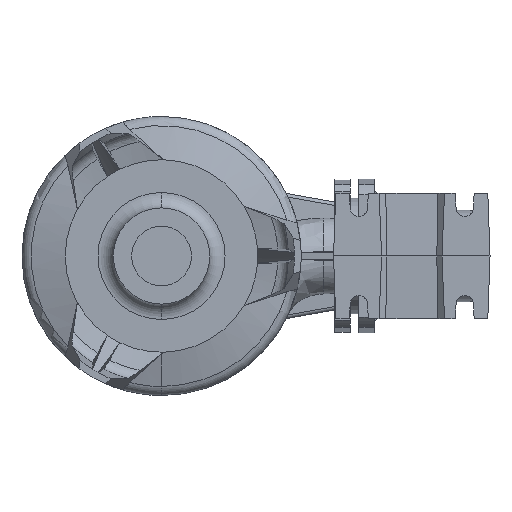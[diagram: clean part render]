
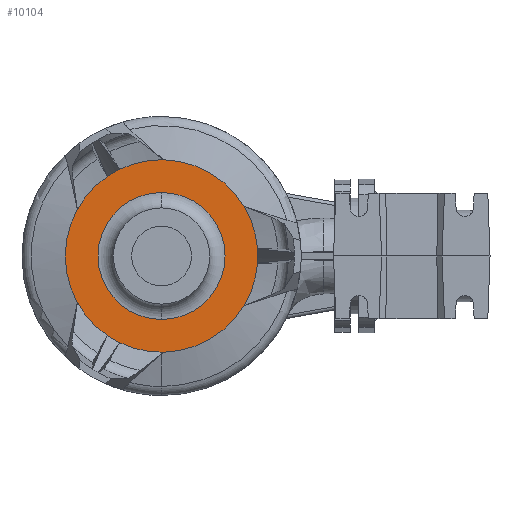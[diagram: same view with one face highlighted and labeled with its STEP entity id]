
A CAD part, front view. The second image highlights one B-rep face of the part: STEP entity #10104.
In plain terms, the highlighted planar face has unit normal (0, -1, 0).
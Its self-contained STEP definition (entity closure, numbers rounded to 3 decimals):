
#101 = DIRECTION ( 'NONE',  ( 0., 0., -1. ) ) ;
#225 = DIRECTION ( 'NONE',  ( 0., 1., 0. ) ) ;
#466 = CARTESIAN_POINT ( 'NONE',  ( -274.678, -178.993, 0. ) ) ;
#952 = VERTEX_POINT ( 'NONE', #12724 ) ;
#1025 = CARTESIAN_POINT ( 'NONE',  ( -274.678, -178.993, 0. ) ) ;
#1118 = DIRECTION ( 'NONE',  ( 0., 0., 1. ) ) ;
#1166 = CARTESIAN_POINT ( 'NONE',  ( -174.958, -178.993, -7.483 ) ) ;
#1378 = DIRECTION ( 'NONE',  ( 0., 0., -1. ) ) ;
#1477 = DIRECTION ( 'NONE',  ( 0., 1., 0. ) ) ;
#1784 = CARTESIAN_POINT ( 'NONE',  ( -318.057, -178.993, -90.101 ) ) ;
#1827 = DIRECTION ( 'NONE',  ( 0., 1., 0. ) ) ;
#1891 = DIRECTION ( 'NONE',  ( 0., 0., -1. ) ) ;
#1928 = CARTESIAN_POINT ( 'NONE',  ( -362.148, -178.993, -48.465 ) ) ;
#1936 = CARTESIAN_POINT ( 'NONE',  ( -274.678, -178.993, 0. ) ) ;
#2002 = VERTEX_POINT ( 'NONE', #5962 ) ;
#2158 = CIRCLE ( 'NONE', #11472, 100. ) ;
#2330 = ORIENTED_EDGE ( 'NONE', *, *, #14148, .T. ) ;
#2352 = DIRECTION ( 'NONE',  ( 0., 0., 1. ) ) ;
#2396 = AXIS2_PLACEMENT_3D ( 'NONE', #14916, #5414, #101 ) ;
#2555 = CIRCLE ( 'NONE', #11863, 100. ) ;
#2576 = EDGE_LOOP ( 'NONE', ( #6443, #14277, #2597, #12723, #4040, #13414, #12950, #15741, #10594, #8594, #15819, #12245, #10343 ) ) ;
#2597 = ORIENTED_EDGE ( 'NONE', *, *, #5905, .T. ) ;
#2618 = AXIS2_PLACEMENT_3D ( 'NONE', #13889, #1827, #5894 ) ;
#2654 = DIRECTION ( 'NONE',  ( 0., 0., 1. ) ) ;
#2691 = PLANE ( 'NONE',  #15300 ) ;
#2702 = DIRECTION ( 'NONE',  ( 0., -1., 0. ) ) ;
#2709 = CIRCLE ( 'NONE', #11165, 100. ) ;
#3142 = CARTESIAN_POINT ( 'NONE',  ( -272.914, -178.993, -99.984 ) ) ;
#3159 = EDGE_CURVE ( 'NONE', #12567, #7004, #4070, .T. ) ;
#3555 = CIRCLE ( 'NONE', #17340, 66. ) ;
#3683 = DIRECTION ( 'NONE',  ( 0., -1., 0. ) ) ;
#3813 = AXIS2_PLACEMENT_3D ( 'NONE', #17358, #17443, #15667 ) ;
#3906 = EDGE_CURVE ( 'NONE', #8948, #11358, #15269, .T. ) ;
#3944 = DIRECTION ( 'NONE',  ( 0., 0., -1. ) ) ;
#4005 = DIRECTION ( 'NONE',  ( 0., 1., 0. ) ) ;
#4040 = ORIENTED_EDGE ( 'NONE', *, *, #14385, .T. ) ;
#4070 = CIRCLE ( 'NONE', #10842, 100. ) ;
#4110 = VERTEX_POINT ( 'NONE', #7892 ) ;
#4111 = CIRCLE ( 'NONE', #10059, 100. ) ;
#4112 = CARTESIAN_POINT ( 'NONE',  ( -274.678, -178.993, 66. ) ) ;
#4424 = DIRECTION ( 'NONE',  ( 0., -1., 0. ) ) ;
#4511 = DIRECTION ( 'NONE',  ( 0., 0., -1. ) ) ;
#4653 = AXIS2_PLACEMENT_3D ( 'NONE', #8599, #13950, #1891 ) ;
#4897 = VERTEX_POINT ( 'NONE', #13363 ) ;
#4933 = EDGE_CURVE ( 'NONE', #5296, #952, #2555, .T. ) ;
#5005 = CARTESIAN_POINT ( 'NONE',  ( -274.678, -178.993, 0. ) ) ;
#5296 = VERTEX_POINT ( 'NONE', #1166 ) ;
#5414 = DIRECTION ( 'NONE',  ( 0., 1., 0. ) ) ;
#5430 = VERTEX_POINT ( 'NONE', #16143 ) ;
#5685 = CARTESIAN_POINT ( 'NONE',  ( -340.678, -178.993, 0. ) ) ;
#5749 = AXIS2_PLACEMENT_3D ( 'NONE', #12322, #225, #3944 ) ;
#5894 = DIRECTION ( 'NONE',  ( 0., 0., -1. ) ) ;
#5905 = EDGE_CURVE ( 'NONE', #6465, #4897, #16927, .T. ) ;
#5962 = CARTESIAN_POINT ( 'NONE',  ( -188.97, -178.993, 51.519 ) ) ;
#6443 = ORIENTED_EDGE ( 'NONE', *, *, #14157, .F. ) ;
#6465 = VERTEX_POINT ( 'NONE', #15620 ) ;
#6678 = CARTESIAN_POINT ( 'NONE',  ( -274.678, -178.993, 0. ) ) ;
#6797 = CARTESIAN_POINT ( 'NONE',  ( -274.678, -178.993, 0. ) ) ;
#7004 = VERTEX_POINT ( 'NONE', #14426 ) ;
#7245 = EDGE_CURVE ( 'NONE', #12567, #8111, #11637, .T. ) ;
#7714 = CIRCLE ( 'NONE', #15011, 100. ) ;
#7892 = CARTESIAN_POINT ( 'NONE',  ( -331.018, -178.993, 82.618 ) ) ;
#8111 = VERTEX_POINT ( 'NONE', #17433 ) ;
#8140 = EDGE_CURVE ( 'NONE', #6465, #2002, #12481, .T. ) ;
#8295 = EDGE_CURVE ( 'NONE', #17295, #16555, #9136, .T. ) ;
#8594 = ORIENTED_EDGE ( 'NONE', *, *, #3906, .T. ) ;
#8599 = CARTESIAN_POINT ( 'NONE',  ( -274.678, -178.993, 0. ) ) ;
#8779 = DIRECTION ( 'NONE',  ( 0., -1., 0. ) ) ;
#8904 = CIRCLE ( 'NONE', #3813, 100. ) ;
#8948 = VERTEX_POINT ( 'NONE', #1784 ) ;
#9069 = DIRECTION ( 'NONE',  ( 0., 1., 0. ) ) ;
#9136 = CIRCLE ( 'NONE', #11110, 66. ) ;
#9575 = DIRECTION ( 'NONE',  ( 0., 0., -1. ) ) ;
#9610 = DIRECTION ( 'NONE',  ( 0., 0., -1. ) ) ;
#9757 = FACE_OUTER_BOUND ( 'NONE', #2576, .T. ) ;
#10059 = AXIS2_PLACEMENT_3D ( 'NONE', #5005, #3683, #2352 ) ;
#10104 = ADVANCED_FACE ( 'NONE', ( #12378, #9757 ), #2691, .F. ) ;
#10128 = CARTESIAN_POINT ( 'NONE',  ( -274.678, -178.993, 0. ) ) ;
#10191 = AXIS2_PLACEMENT_3D ( 'NONE', #13838, #4424, #4511 ) ;
#10343 = ORIENTED_EDGE ( 'NONE', *, *, #14923, .T. ) ;
#10388 = DIRECTION ( 'NONE',  ( 0., 0., -1. ) ) ;
#10571 = CARTESIAN_POINT ( 'NONE',  ( -274.678, -178.993, 0. ) ) ;
#10594 = ORIENTED_EDGE ( 'NONE', *, *, #12076, .T. ) ;
#10764 = DIRECTION ( 'NONE',  ( 0., -1., 0. ) ) ;
#10842 = AXIS2_PLACEMENT_3D ( 'NONE', #466, #8779, #16508 ) ;
#10843 = CIRCLE ( 'NONE', #2396, 100. ) ;
#11110 = AXIS2_PLACEMENT_3D ( 'NONE', #10128, #17144, #16969 ) ;
#11165 = AXIS2_PLACEMENT_3D ( 'NONE', #1936, #11538, #16639 ) ;
#11358 = VERTEX_POINT ( 'NONE', #3142 ) ;
#11472 = AXIS2_PLACEMENT_3D ( 'NONE', #10571, #15918, #1118 ) ;
#11538 = DIRECTION ( 'NONE',  ( 0., 1., 0. ) ) ;
#11637 = CIRCLE ( 'NONE', #2618, 100. ) ;
#11863 = AXIS2_PLACEMENT_3D ( 'NONE', #1025, #9069, #10388 ) ;
#12076 = EDGE_CURVE ( 'NONE', #7004, #8948, #7714, .T. ) ;
#12245 = ORIENTED_EDGE ( 'NONE', *, *, #4933, .F. ) ;
#12322 = CARTESIAN_POINT ( 'NONE',  ( -274.678, -178.993, 0. ) ) ;
#12378 = FACE_BOUND ( 'NONE', #16299, .T. ) ;
#12481 = CIRCLE ( 'NONE', #5749, 100. ) ;
#12567 = VERTEX_POINT ( 'NONE', #1928 ) ;
#12723 = ORIENTED_EDGE ( 'NONE', *, *, #14058, .T. ) ;
#12724 = CARTESIAN_POINT ( 'NONE',  ( -188.97, -178.993, -51.519 ) ) ;
#12846 = VERTEX_POINT ( 'NONE', #14303 ) ;
#12950 = ORIENTED_EDGE ( 'NONE', *, *, #7245, .F. ) ;
#13079 = CIRCLE ( 'NONE', #4653, 100. ) ;
#13081 = EDGE_CURVE ( 'NONE', #952, #11358, #10843, .T. ) ;
#13261 = EDGE_CURVE ( 'NONE', #4110, #8111, #13079, .T. ) ;
#13363 = CARTESIAN_POINT ( 'NONE',  ( -274.678, -178.993, 100. ) ) ;
#13414 = ORIENTED_EDGE ( 'NONE', *, *, #13261, .T. ) ;
#13838 = CARTESIAN_POINT ( 'NONE',  ( -274.678, -178.993, 0. ) ) ;
#13889 = CARTESIAN_POINT ( 'NONE',  ( -274.678, -178.993, 0. ) ) ;
#13950 = DIRECTION ( 'NONE',  ( 0., -1., 0. ) ) ;
#14058 = EDGE_CURVE ( 'NONE', #4897, #5430, #8904, .T. ) ;
#14148 = EDGE_CURVE ( 'NONE', #16555, #17295, #3555, .T. ) ;
#14157 = EDGE_CURVE ( 'NONE', #2002, #12846, #2709, .T. ) ;
#14277 = ORIENTED_EDGE ( 'NONE', *, *, #8140, .F. ) ;
#14303 = CARTESIAN_POINT ( 'NONE',  ( -174.958, -178.993, 7.483 ) ) ;
#14385 = EDGE_CURVE ( 'NONE', #5430, #4110, #4111, .T. ) ;
#14423 = AXIS2_PLACEMENT_3D ( 'NONE', #6678, #2702, #1378 ) ;
#14426 = CARTESIAN_POINT ( 'NONE',  ( -331.018, -178.993, -82.618 ) ) ;
#14879 = CARTESIAN_POINT ( 'NONE',  ( -274.678, -178.993, 0. ) ) ;
#14916 = CARTESIAN_POINT ( 'NONE',  ( -274.678, -178.993, 0. ) ) ;
#14923 = EDGE_CURVE ( 'NONE', #5296, #12846, #2158, .T. ) ;
#15011 = AXIS2_PLACEMENT_3D ( 'NONE', #6797, #10764, #2654 ) ;
#15269 = CIRCLE ( 'NONE', #14423, 100. ) ;
#15300 = AXIS2_PLACEMENT_3D ( 'NONE', #5685, #4005, #9575 ) ;
#15620 = CARTESIAN_POINT ( 'NONE',  ( -272.914, -178.993, 99.984 ) ) ;
#15667 = DIRECTION ( 'NONE',  ( 0., 0., -1. ) ) ;
#15741 = ORIENTED_EDGE ( 'NONE', *, *, #3159, .T. ) ;
#15819 = ORIENTED_EDGE ( 'NONE', *, *, #13081, .F. ) ;
#15918 = DIRECTION ( 'NONE',  ( 0., -1., 0. ) ) ;
#16143 = CARTESIAN_POINT ( 'NONE',  ( -318.057, -178.993, 90.101 ) ) ;
#16299 = EDGE_LOOP ( 'NONE', ( #16985, #2330 ) ) ;
#16508 = DIRECTION ( 'NONE',  ( 0., 0., -1. ) ) ;
#16555 = VERTEX_POINT ( 'NONE', #4112 ) ;
#16639 = DIRECTION ( 'NONE',  ( 0., 0., -1. ) ) ;
#16927 = CIRCLE ( 'NONE', #10191, 100. ) ;
#16969 = DIRECTION ( 'NONE',  ( 0., 0., -1. ) ) ;
#16985 = ORIENTED_EDGE ( 'NONE', *, *, #8295, .T. ) ;
#17144 = DIRECTION ( 'NONE',  ( 0., 1., 0. ) ) ;
#17235 = CARTESIAN_POINT ( 'NONE',  ( -274.678, -178.993, -66. ) ) ;
#17295 = VERTEX_POINT ( 'NONE', #17235 ) ;
#17340 = AXIS2_PLACEMENT_3D ( 'NONE', #14879, #1477, #9610 ) ;
#17358 = CARTESIAN_POINT ( 'NONE',  ( -274.678, -178.993, 0. ) ) ;
#17433 = CARTESIAN_POINT ( 'NONE',  ( -362.148, -178.993, 48.465 ) ) ;
#17443 = DIRECTION ( 'NONE',  ( 0., -1., 0. ) ) ;
